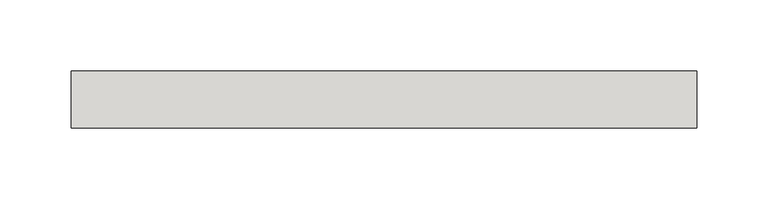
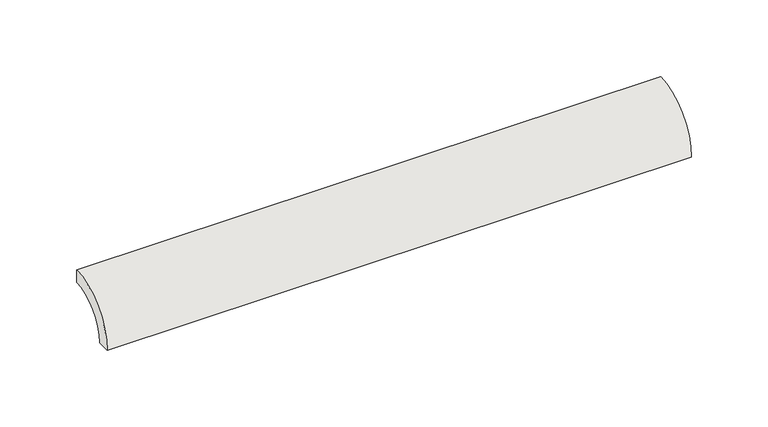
"""IFC4 building model written with IfcOpenShell, lengths in millimetres: slab geometry, ROSA GRES_183 : Pieza 183_Tresor_Java_Anti-Slip."""

from ifc_helpers import new_model, si_unit, point, frame, frame_2d, origin, origin_2d, place, context, project, spatial, polyline, circle_curve, trimmed, segment, composite_curve, outline, extrude, source, transform, mapped, element, save


def slab_8d85c21c(model_context):
    return source(origin(), model_context, "Body", "SweptSolid", [
        extrude(outline(composite_curve([segment(polyline([(0.0, 40.0), (0.0, 30.0265886)]), True, "CONTINUOUS"), segment(trimmed(circle_curve(frame_2d((-0.0044453, 0.0044453)), 30.0221435), [point((0.0, 30.0265886))], [point((-30.0265886, 0.0))], True, "CARTESIAN"), True, "CONTINUOUS"), segment(polyline([(-30.0265886, 0.0), (-40.0, 0.0)]), True, "CONTINUOUS"), segment(trimmed(circle_curve(origin_2d(), 40.0), [point((-40.0, 0.0))], [point((0.0, 40.0))], False, "CARTESIAN"), True, "CONTINUOUS")], self_intersect=False)), frame((0.0, 0.0, 0.0), z_axis=(1.0, 0.0, 0.0), x_axis=(0.0, 1.0, 0.0)), (0.0, 0.0, 1.0), 440.0),
    ])


if __name__ == "__main__":
    model = new_model("IFC4")
    model_context = context("Model", 3, world=origin())
    ifc_project = project(units=[si_unit("LENGTHUNIT", "METRE", prefix="MILLI")], contexts=[model_context])
    site = spatial("IfcSite", under=ifc_project)
    building = spatial("IfcBuilding", under=site)
    placement = place(None, origin())
    slab_shape = slab_8d85c21c(model_context)
    element("IfcSlab", 1, ObjectType="ROSA GRES_183 : Pieza 183_Tresor_Java_Anti-Slip", at=placement, inside=building, context=model_context, shape_type="MappedRepresentation", body=[
        mapped(slab_shape, transform((0.0, 0.0, 0.0), x_axis=(1.0, 0.0, 0.0), y_axis=(0.0, 1.0, 0.0), z_axis=(0.0, 0.0, 1.0))),
    ])
    save(model, "model.ifc")
